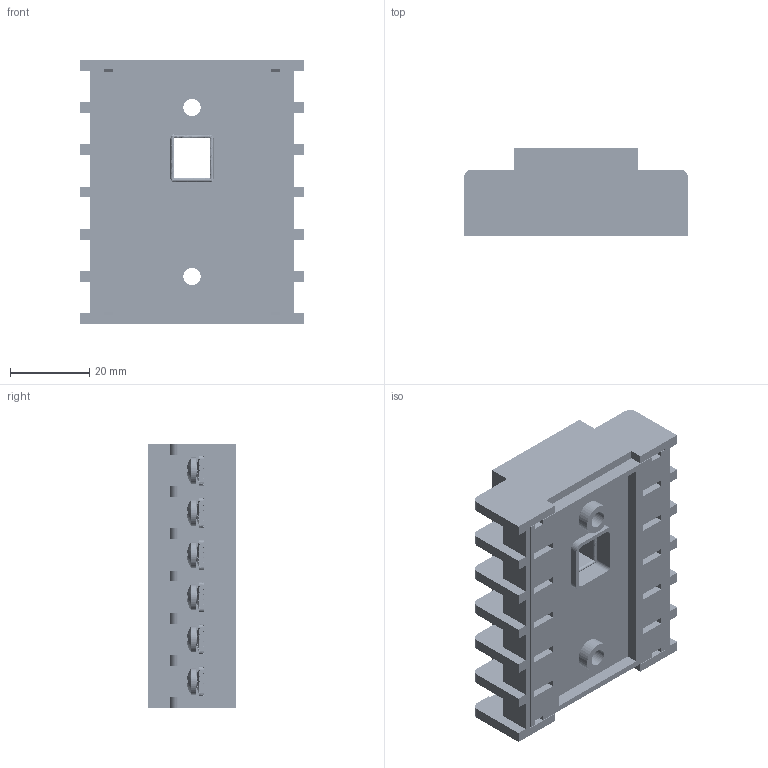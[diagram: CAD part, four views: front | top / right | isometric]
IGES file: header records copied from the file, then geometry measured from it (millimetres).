
Start section: SolidWorks IGES file using analytic representation for surfaces
Global section: file name: C:\Users\kathy\Desktop\Eric\to send\1-10-00050.IGS; native system: SolidWorks 2007; preprocessor: SolidWorks 2007; author: kathy; date: 121227.175501; units: inch
Bounding box: 56.69 x 22.35 x 66.75 mm (x, y, z)
Surface area: 50494.3 mm2 (no closed solid volume)
Topology: 0 solids, 0 shells, 6366 faces, 55084 edges, 55060 vertices
Faces by surface type: bspline 5506, revolution 860
